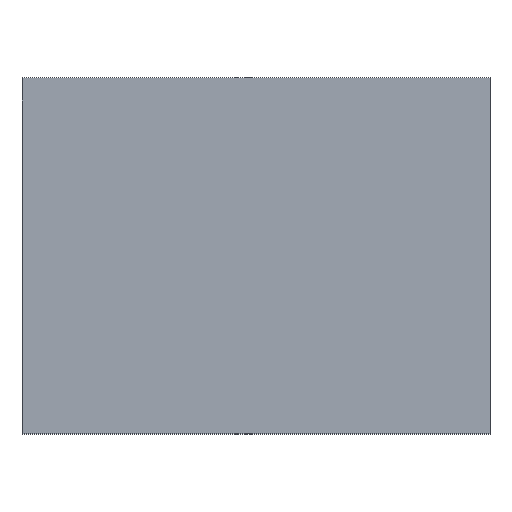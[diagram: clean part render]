
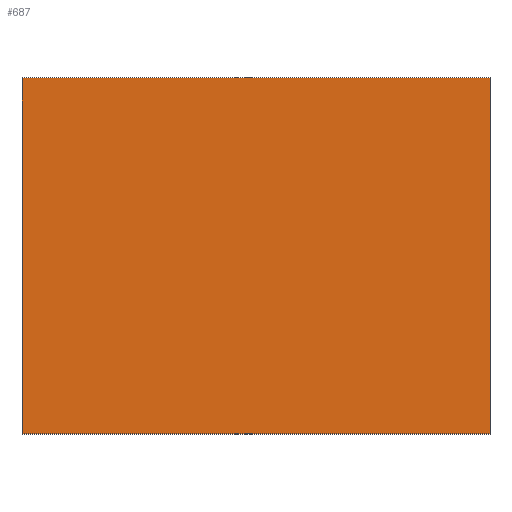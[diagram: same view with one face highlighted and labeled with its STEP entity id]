
A CAD part, top view. The second image highlights one B-rep face of the part: STEP entity #687.
In plain terms, the highlighted planar face has unit normal (0, 0, 1).
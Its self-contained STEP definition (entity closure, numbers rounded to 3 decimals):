
#6 = DIRECTION ( 'NONE',  ( 0., -1., 0. ) ) ;
#33 = LINE ( 'NONE', #740, #582 ) ;
#55 = CARTESIAN_POINT ( 'NONE',  ( 50., 0., 12.5 ) ) ;
#182 = VERTEX_POINT ( 'NONE', #497 ) ;
#184 = CARTESIAN_POINT ( 'NONE',  ( 0., 0., 12.5 ) ) ;
#242 = VECTOR ( 'NONE', #6, 1000. ) ;
#301 = CARTESIAN_POINT ( 'NONE',  ( 50., 0., 12.5 ) ) ;
#340 = EDGE_CURVE ( 'NONE', #584, #378, #33, .T. ) ;
#351 = DIRECTION ( 'NONE',  ( 0., 0., -1. ) ) ;
#368 = DIRECTION ( 'NONE',  ( -1., 0., 0. ) ) ;
#378 = VERTEX_POINT ( 'NONE', #55 ) ;
#468 = DIRECTION ( 'NONE',  ( -1., 0., 0. ) ) ;
#497 = CARTESIAN_POINT ( 'NONE',  ( 50., 38., 12.5 ) ) ;
#570 = EDGE_LOOP ( 'NONE', ( #1061, #746, #974, #803 ) ) ;
#579 = DIRECTION ( 'NONE',  ( 0., 1., 0. ) ) ;
#582 = VECTOR ( 'NONE', #1123, 1000. ) ;
#584 = VERTEX_POINT ( 'NONE', #609 ) ;
#609 = CARTESIAN_POINT ( 'NONE',  ( 0., 0., 12.5 ) ) ;
#619 = VECTOR ( 'NONE', #468, 1000. ) ;
#687 = ADVANCED_FACE ( 'NONE', ( #1080 ), #987, .F. ) ;
#689 = CARTESIAN_POINT ( 'NONE',  ( 0., 38., 12.5 ) ) ;
#704 = LINE ( 'NONE', #899, #242 ) ;
#737 = EDGE_CURVE ( 'NONE', #182, #965, #1108, .T. ) ;
#740 = CARTESIAN_POINT ( 'NONE',  ( 0., 0., 12.5 ) ) ;
#746 = ORIENTED_EDGE ( 'NONE', *, *, #340, .T. ) ;
#803 = ORIENTED_EDGE ( 'NONE', *, *, #737, .T. ) ;
#813 = EDGE_CURVE ( 'NONE', #378, #182, #920, .T. ) ;
#899 = CARTESIAN_POINT ( 'NONE',  ( 0., 0., 12.5 ) ) ;
#920 = LINE ( 'NONE', #301, #1113 ) ;
#965 = VERTEX_POINT ( 'NONE', #689 ) ;
#974 = ORIENTED_EDGE ( 'NONE', *, *, #813, .T. ) ;
#987 = PLANE ( 'NONE',  #1042 ) ;
#1042 = AXIS2_PLACEMENT_3D ( 'NONE', #184, #351, #368 ) ;
#1061 = ORIENTED_EDGE ( 'NONE', *, *, #1128, .T. ) ;
#1080 = FACE_OUTER_BOUND ( 'NONE', #570, .T. ) ;
#1102 = CARTESIAN_POINT ( 'NONE',  ( 0., 38., 12.5 ) ) ;
#1108 = LINE ( 'NONE', #1102, #619 ) ;
#1113 = VECTOR ( 'NONE', #579, 1000. ) ;
#1123 = DIRECTION ( 'NONE',  ( 1., 0., 0. ) ) ;
#1128 = EDGE_CURVE ( 'NONE', #965, #584, #704, .T. ) ;
